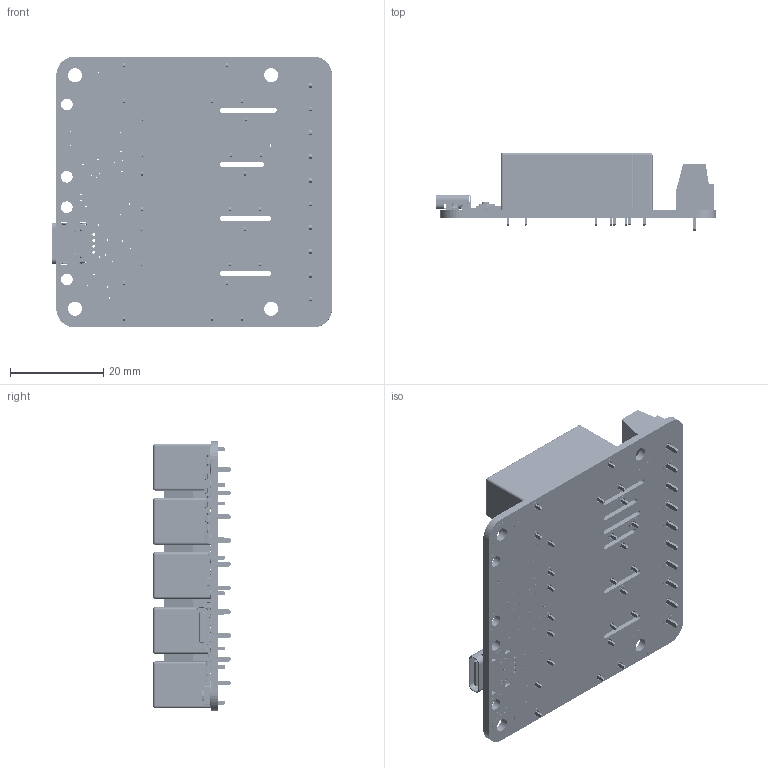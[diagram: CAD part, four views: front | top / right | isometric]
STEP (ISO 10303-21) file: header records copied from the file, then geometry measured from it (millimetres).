
FILE_DESCRIPTION (( 'STEP AP214' ), '1' );
FILE_NAME ('MXPWRLYC.step', '2025-09-01T12:52:38', ( '' ), ( '' ), 'SwSTEP 2.0', 'SolidWorks 2008', '' );
FILE_SCHEMA (( 'AUTOMOTIVE_DESIGN' ));
Length unit declared in the file: millimetre
Products named in the file (25): USB1; C16; REG1; C6; RELAY5; R4; sens1; R2; U1; ledOutB5; PCB; SW1; T5; YLED; R1; P2; R10; R12; PVSS; C19; C18; T9; R5; MXPWRLYC; C2
Assembly tree (39 placements, depth 2):
  PVSS
  MXPWRLYC
    PCB
    ledOutB5  x5
    C16
    RELAY5  x5
    sens1
    R1
    C2
    T9
    R10  x2
    T5  x5
    C6  x4
    C19
    C18
    R4
    U1
    R12
    P2
    SW1
    R2
    R5
    YLED
    USB1
    REG1
Bounding box: 60.1 x 16.7 x 58 mm (x, y, z)
Volume: 26153.8 mm3; surface area: 18702.1 mm2
Topology: 47 solids, 47 shells, 9441 faces, 24822 edges, 16303 vertices
Faces by surface type: plane 5831, bspline 1770, cylinder 1737, sphere 84, cone 12, torus 7
Entity records: 271498 total; most frequent: CARTESIAN_POINT 68591, ORIENTED_EDGE 30914, DIRECTION 28078, EDGE_CURVE 15457, VECTOR 11014, LINE 11014, VERTEX_POINT 10191, AXIS2_PLACEMENT_3D 8532
